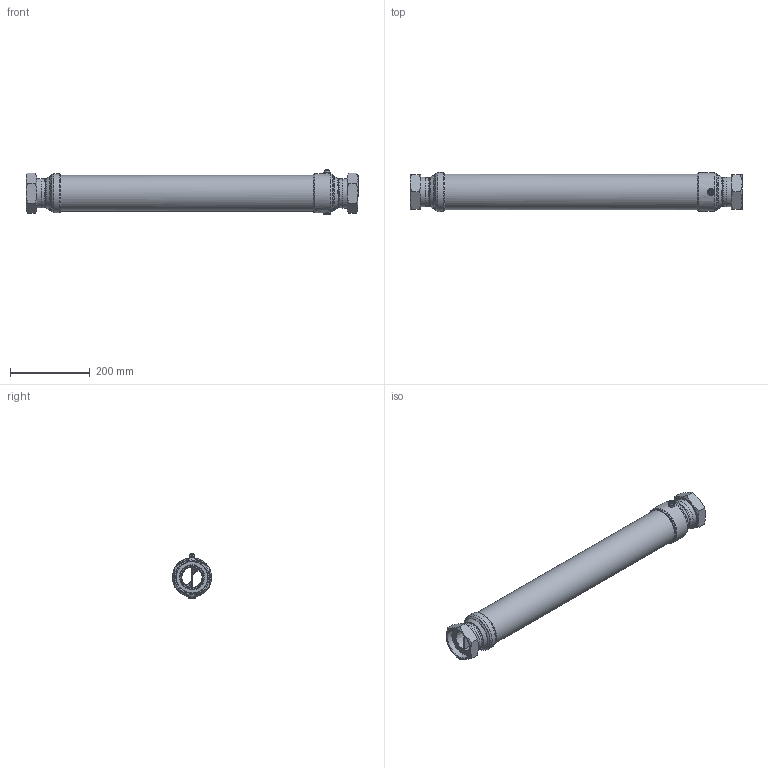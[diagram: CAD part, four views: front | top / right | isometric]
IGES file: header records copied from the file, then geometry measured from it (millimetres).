
Global section: file name: TU H-B 360_3D_V1.0_Simplifier_1; native system: Autodesk Inventor 2024; preprocessor: unknown; author: Massimo Maselli; date: 20240201.144943; units: millimetre
Bounding box: 833.6 x 97.99 x 114.75 mm (x, y, z)
Volume: 1091108.9 mm3; surface area: 844672.4 mm2
Topology: 14 solids, 14 shells, 1049 faces, 2762 edges, 1837 vertices
Faces by surface type: bspline 1049
